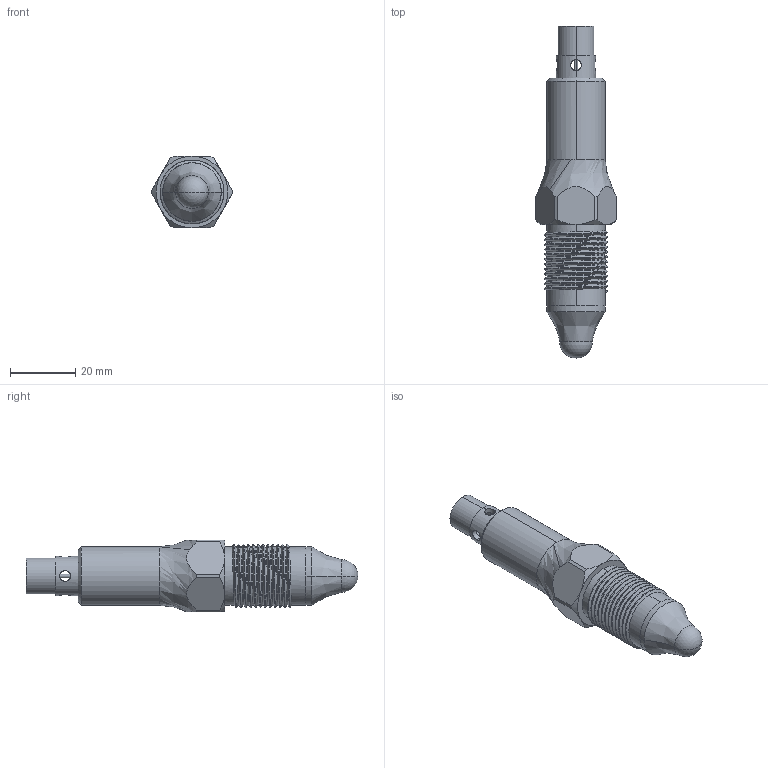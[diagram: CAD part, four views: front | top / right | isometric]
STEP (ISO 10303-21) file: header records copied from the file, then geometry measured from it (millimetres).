
FILE_DESCRIPTION (( 'STEP AP214' ), '1' );
FILE_NAME ('BLM1P3G.STEP', '2025-11-11T08:31:04', ( '' ), ( '' ), 'SwSTEP 2.0', 'SolidWorks 2025', '' );
FILE_SCHEMA (( 'AUTOMOTIVE_DESIGN' ));
Length unit declared in the file: millimetre
Products named in the file (1): BLM1P3G
Bounding box: 24.83 x 102 x 22 mm (x, y, z)
Volume: 22990.5 mm3; surface area: 7172 mm2
Topology: 1 solids, 1 shells, 95 faces, 262 edges, 163 vertices
Faces by surface type: cylinder 51, plane 19, sphere 10, cone 8, bspline 7
Entity records: 5644 total; most frequent: CARTESIAN_POINT 3544, ORIENTED_EDGE 494, DIRECTION 362, EDGE_CURVE 247, VERTEX_POINT 158, AXIS2_PLACEMENT_3D 142, EDGE_LOOP 107, FACE_OUTER_BOUND 95
